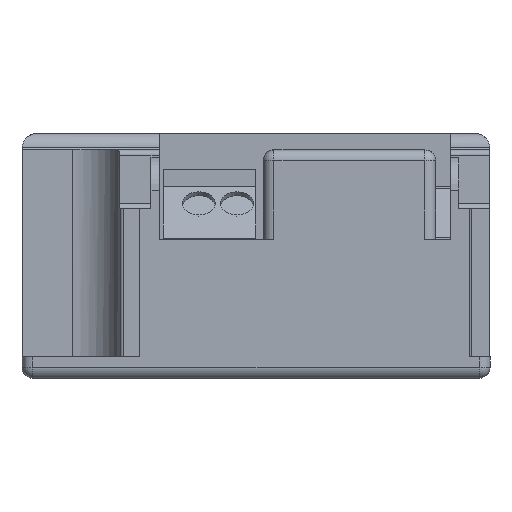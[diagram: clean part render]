
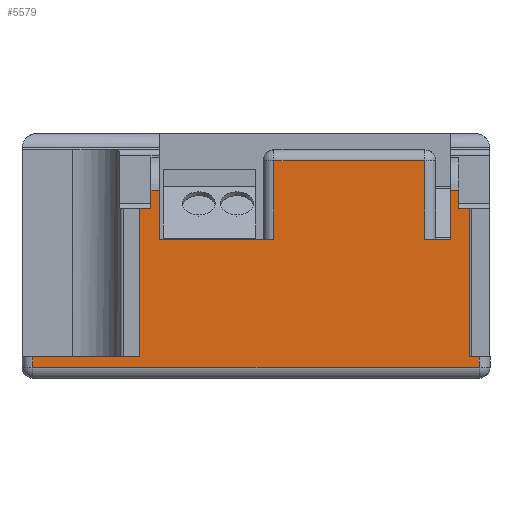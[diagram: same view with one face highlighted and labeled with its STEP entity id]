
A CAD part, left-side view. The second image highlights one B-rep face of the part: STEP entity #5579.
In plain terms, the highlighted planar face has unit normal (-1, 0, 0).
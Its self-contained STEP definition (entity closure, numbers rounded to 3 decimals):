
#105=DIRECTION('',(0.,1.,0.));
#106=VECTOR('',#105,13.85);
#107=CARTESIAN_POINT('',(-21.73,0.732,13.558));
#108=LINE('',#107,#106);
#119=DIRECTION('',(0.,0.,1.));
#120=VECTOR('',#119,1.703);
#121=CARTESIAN_POINT('',(-21.73,25.88,9.158));
#122=LINE('',#121,#120);
#126=DIRECTION('',(0.,0.,-1.));
#127=VECTOR('',#126,4.504);
#128=CARTESIAN_POINT('',(-21.73,25.13,10.861));
#129=LINE('',#128,#127);
#133=DIRECTION('',(0.,-1.,0.));
#134=VECTOR('',#133,10.548);
#135=CARTESIAN_POINT('',(-21.73,25.13,6.358));
#136=LINE('',#135,#134);
#140=DIRECTION('',(0.,0.,-1.));
#141=VECTOR('',#140,1.7);
#142=CARTESIAN_POINT('',(-21.73,-2.416,10.857));
#143=LINE('',#142,#141);
#147=DIRECTION('',(0.,-1.,0.));
#148=VECTOR('',#147,1.);
#149=CARTESIAN_POINT('',(-21.73,-2.416,9.158));
#150=LINE('',#149,#148);
#154=DIRECTION('',(0.,0.,-1.));
#155=VECTOR('',#154,13.6);
#156=CARTESIAN_POINT('',(-21.73,-3.416,9.158));
#157=LINE('',#156,#155);
#161=DIRECTION('',(0.,-1.,0.));
#162=VECTOR('',#161,0.852);
#163=CARTESIAN_POINT('',(-21.73,-3.416,
-4.442));
#164=LINE('',#163,#162);
#175=DIRECTION('',(0.,-1.,0.));
#176=VECTOR('',#175,41.);
#177=CARTESIAN_POINT('',(-21.73,36.732,-5.442));
#178=LINE('',#177,#176);
#366=DIRECTION('',(0.,0.,1.));
#367=VECTOR('',#366,1.);
#368=CARTESIAN_POINT('',(-21.73,-4.268,
-5.442));
#369=LINE('',#368,#367);
#674=DIRECTION('',(0.,0.,-1.));
#675=VECTOR('',#674,4.5);
#676=CARTESIAN_POINT('',(-21.73,-1.666,10.857));
#677=LINE('',#676,#675);
#749=DIRECTION('',(0.,1.,0.));
#750=VECTOR('',#749,2.398);
#751=CARTESIAN_POINT('',(-21.73,-1.666,6.358));
#752=LINE('',#751,#750);
#771=DIRECTION('',(0.,0.,1.));
#772=VECTOR('',#771,7.2);
#773=CARTESIAN_POINT('',(-21.73,0.732,6.358));
#774=LINE('',#773,#772);
#887=DIRECTION('',(0.,0.,-1.));
#888=VECTOR('',#887,7.2);
#889=CARTESIAN_POINT('',(-21.73,14.582,13.558));
#890=LINE('',#889,#888);
#2599=DIRECTION('',(0.,1.,0.));
#2600=VECTOR('',#2599,1.014);
#2601=CARTESIAN_POINT('',(-21.73,25.88,9.158));
#2602=LINE('',#2601,#2600);
#2606=DIRECTION('',(0.,0.,-1.));
#2607=VECTOR('',#2606,13.6);
#2608=CARTESIAN_POINT('',(-21.73,26.894,9.158));
#2609=LINE('',#2608,#2607);
#2697=DIRECTION('',(0.,1.,0.));
#2698=VECTOR('',#2697,9.838);
#2699=CARTESIAN_POINT('',(-21.73,26.894,
-4.442));
#2700=LINE('',#2699,#2698);
#2888=DIRECTION('',(0.,0.,-1.));
#2889=VECTOR('',#2888,1.);
#2890=CARTESIAN_POINT('',(-21.73,36.732,
-4.442));
#2891=LINE('',#2890,#2889);
#2947=DIRECTION('',(0.,1.,0.));
#2948=VECTOR('',#2947,0.75);
#2949=CARTESIAN_POINT('',(-21.73,25.13,10.861));
#2950=LINE('',#2949,#2948);
#4636=DIRECTION('',(0.,1.,0.));
#4637=VECTOR('',#4636,0.75);
#4638=CARTESIAN_POINT('',(-21.73,-2.416,
10.857));
#4639=LINE('',#4638,#4637);
#5126=CARTESIAN_POINT('',(-21.73,-2.416,
9.158));
#5127=VERTEX_POINT('',#5126);
#5128=CARTESIAN_POINT('',(-21.73,-2.416,
10.857));
#5129=VERTEX_POINT('',#5128);
#5176=CARTESIAN_POINT('',(-21.73,-1.666,
10.857));
#5177=CARTESIAN_POINT('',(-21.73,-1.666,
6.358));
#5178=VERTEX_POINT('',#5176);
#5179=VERTEX_POINT('',#5177);
#5201=CARTESIAN_POINT('',(-21.73,36.732,
-5.442));
#5202=CARTESIAN_POINT('',(-21.73,-4.268,
-5.442));
#5203=VERTEX_POINT('',#5201);
#5204=VERTEX_POINT('',#5202);
#5205=CARTESIAN_POINT('',(-21.73,36.732,
-4.442));
#5206=VERTEX_POINT('',#5205);
#5207=CARTESIAN_POINT('',(-21.73,26.894,
-4.442));
#5208=VERTEX_POINT('',#5207);
#5209=CARTESIAN_POINT('',(-21.73,26.894,9.158));
#5210=VERTEX_POINT('',#5209);
#5211=CARTESIAN_POINT('',(-21.73,25.88,9.158));
#5212=VERTEX_POINT('',#5211);
#5213=CARTESIAN_POINT('',(-21.73,25.88,10.861));
#5214=VERTEX_POINT('',#5213);
#5215=CARTESIAN_POINT('',(-21.73,25.13,10.861));
#5216=VERTEX_POINT('',#5215);
#5217=CARTESIAN_POINT('',(-21.73,25.13,6.358));
#5218=VERTEX_POINT('',#5217);
#5219=CARTESIAN_POINT('',(-21.73,14.582,6.358));
#5220=VERTEX_POINT('',#5219);
#5221=CARTESIAN_POINT('',(-21.73,14.582,13.558));
#5222=VERTEX_POINT('',#5221);
#5223=CARTESIAN_POINT('',(-21.73,0.732,
13.558));
#5224=VERTEX_POINT('',#5223);
#5225=CARTESIAN_POINT('',(-21.73,0.732,
6.358));
#5226=VERTEX_POINT('',#5225);
#5227=CARTESIAN_POINT('',(-21.73,-3.416,
9.158));
#5228=VERTEX_POINT('',#5227);
#5229=CARTESIAN_POINT('',(-21.73,-3.416,
-4.442));
#5230=VERTEX_POINT('',#5229);
#5231=CARTESIAN_POINT('',(-21.73,-4.268,
-4.442));
#5232=VERTEX_POINT('',#5231);
#5533=CARTESIAN_POINT('',(-21.73,37.732,
-6.442));
#5534=DIRECTION('',(-1.,0.,0.));
#5535=DIRECTION('',(0.,-1.,0.));
#5536=AXIS2_PLACEMENT_3D('',#5533,#5534,#5535);
#5537=PLANE('',#5536);
#5539=ORIENTED_EDGE('',*,*,#5538,.F.);
#5541=ORIENTED_EDGE('',*,*,#5540,.F.);
#5543=ORIENTED_EDGE('',*,*,#5542,.F.);
#5545=ORIENTED_EDGE('',*,*,#5544,.F.);
#5547=ORIENTED_EDGE('',*,*,#5546,.F.);
#5549=ORIENTED_EDGE('',*,*,#5548,.T.);
#5551=ORIENTED_EDGE('',*,*,#5550,.F.);
#5553=ORIENTED_EDGE('',*,*,#5552,.T.);
#5555=ORIENTED_EDGE('',*,*,#5554,.T.);
#5557=ORIENTED_EDGE('',*,*,#5556,.F.);
#5558=ORIENTED_EDGE('',*,*,#5523,.F.);
#5560=ORIENTED_EDGE('',*,*,#5559,.F.);
#5562=ORIENTED_EDGE('',*,*,#5561,.F.);
#5564=ORIENTED_EDGE('',*,*,#5563,.F.);
#5566=ORIENTED_EDGE('',*,*,#5565,.F.);
#5568=ORIENTED_EDGE('',*,*,#5567,.T.);
#5570=ORIENTED_EDGE('',*,*,#5569,.T.);
#5572=ORIENTED_EDGE('',*,*,#5571,.T.);
#5574=ORIENTED_EDGE('',*,*,#5573,.T.);
#5576=ORIENTED_EDGE('',*,*,#5575,.F.);
#5577=EDGE_LOOP('',(#5539,#5541,#5543,#5545,#5547,#5549,#5551,#5553,#5555,#5557,
#5558,#5560,#5562,#5564,#5566,#5568,#5570,#5572,#5574,#5576));
#5578=FACE_OUTER_BOUND('',#5577,.F.);
#5523=EDGE_CURVE('',#5224,#5222,#108,.T.);
#5538=EDGE_CURVE('',#5203,#5204,#178,.T.);
#5540=EDGE_CURVE('',#5206,#5203,#2891,.T.);
#5542=EDGE_CURVE('',#5208,#5206,#2700,.T.);
#5544=EDGE_CURVE('',#5210,#5208,#2609,.T.);
#5546=EDGE_CURVE('',#5212,#5210,#2602,.T.);
#5548=EDGE_CURVE('',#5212,#5214,#122,.T.);
#5550=EDGE_CURVE('',#5216,#5214,#2950,.T.);
#5552=EDGE_CURVE('',#5216,#5218,#129,.T.);
#5554=EDGE_CURVE('',#5218,#5220,#136,.T.);
#5556=EDGE_CURVE('',#5222,#5220,#890,.T.);
#5559=EDGE_CURVE('',#5226,#5224,#774,.T.);
#5561=EDGE_CURVE('',#5179,#5226,#752,.T.);
#5563=EDGE_CURVE('',#5178,#5179,#677,.T.);
#5565=EDGE_CURVE('',#5129,#5178,#4639,.T.);
#5567=EDGE_CURVE('',#5129,#5127,#143,.T.);
#5569=EDGE_CURVE('',#5127,#5228,#150,.T.);
#5571=EDGE_CURVE('',#5228,#5230,#157,.T.);
#5573=EDGE_CURVE('',#5230,#5232,#164,.T.);
#5575=EDGE_CURVE('',#5204,#5232,#369,.T.);
#5579=ADVANCED_FACE('',(#5578),#5537,.T.);
